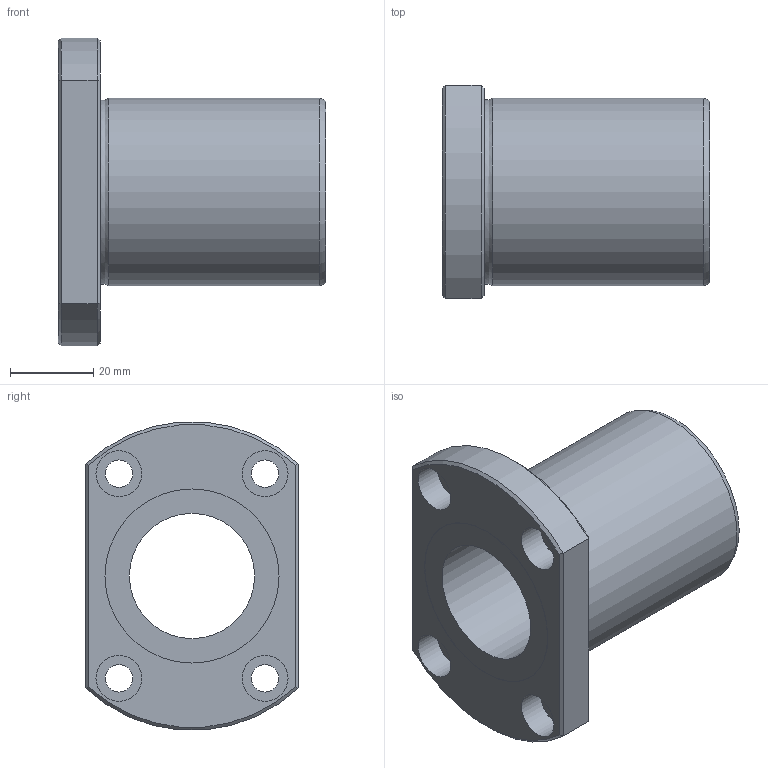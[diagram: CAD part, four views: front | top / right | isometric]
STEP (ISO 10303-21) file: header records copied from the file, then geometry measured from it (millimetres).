
FILE_DESCRIPTION((''),'2;1');
FILE_NAME('D:\製品 (図面)\カタログ用3D\リニアベアリング関連\STEP形式\LFT\LFT30B.stp','2010-06-04T09:18:54',('Tsuchiya'),(''),'Autodesk Inventor 10','Autodesk Inventor 10','');
FILE_SCHEMA(('AUTOMOTIVE_DESIGN { 1 0 10303 214 1 1 1 1 }'));
Length unit declared in the file: millimetre
Products named in the file (1): LFT30B
Bounding box: 64 x 51 x 73.74 mm (x, y, z)
Volume: 71773 mm3; surface area: 22074.9 mm2
Topology: 1 solids, 1 shells, 35 faces, 68 edges, 42 vertices
Faces by surface type: plane 15, cylinder 14, cone 4, torus 1, bspline 1
Full cylindrical faces by diameter (mm): 6.6 x4, 11 x4, 30 x1, 41.7 x2, 45 x1
Entity records: 935 total; most frequent: CARTESIAN_POINT 218, DIRECTION 150, ORIENTED_EDGE 108, AXIS2_PLACEMENT_3D 69, EDGE_LOOP 66, EDGE_CURVE 54, VERTEX_POINT 42, FACE_OUTER_BOUND 35
